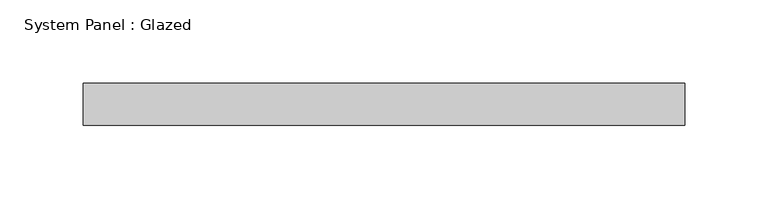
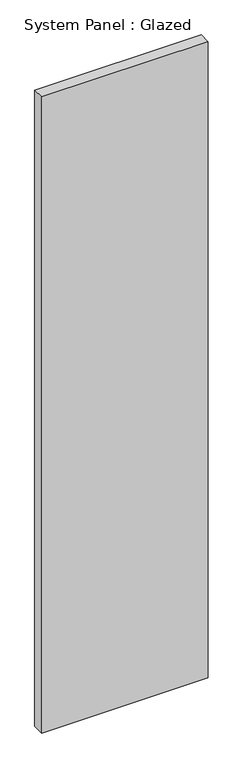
"""IFC4 building model written with IfcOpenShell, lengths in millimetres: plate geometry, System Panel : Glazed."""

from ifc_helpers import new_model, si_unit, origin, origin_with_axes, place, context, project, spatial, polyline, outline, extrude, source, transform, mapped, element, save


def system_panel_glazed_224948cd(model_context):
    return source(origin(), model_context, "Body", "SweptSolid", [
        extrude(outline(polyline([(180.975, 19.05), (-180.975, 19.05), (-180.975, 44.45), (180.975, 44.45), (180.975, 19.05)])), origin_with_axes(), (0.0, 0.0, 1.0), 1460.5),
    ])


if __name__ == "__main__":
    model = new_model("IFC4")
    model_context = context("Model", 3, world=origin())
    ifc_project = project(units=[si_unit("LENGTHUNIT", "METRE", prefix="MILLI")], contexts=[model_context])
    site = spatial("IfcSite", under=ifc_project)
    building = spatial("IfcBuilding", under=site)
    placement = place(None, origin())
    system_panel_glazed_shape = system_panel_glazed_224948cd(model_context)
    element("IfcPlate", 1, ObjectType="System Panel : Glazed", at=placement, inside=building, context=model_context, shape_type="MappedRepresentation", body=[
        mapped(system_panel_glazed_shape, transform((0.0, 0.0, 0.0), x_axis=(1.0, 0.0, 0.0), y_axis=(0.0, 1.0, 0.0), z_axis=(0.0, 0.0, 1.0))),
    ])
    save(model, "model.ifc")
